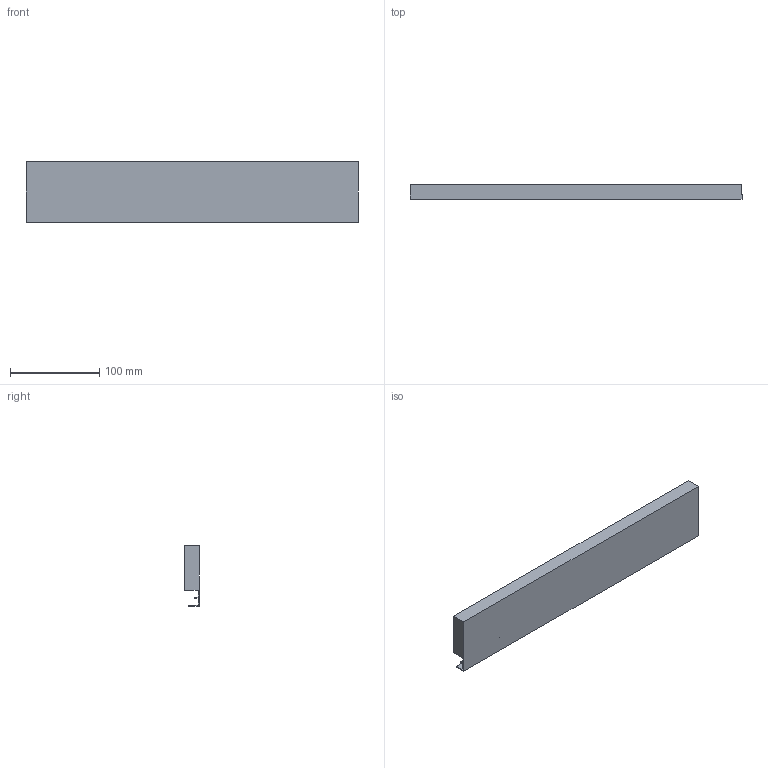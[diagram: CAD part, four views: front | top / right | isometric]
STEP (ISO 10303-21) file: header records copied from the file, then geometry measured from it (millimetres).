
FILE_DESCRIPTION (( 'STEP AP214' ), '1' );
FILE_NAME ('Innenschub-Blendenprofil_KAB500_S19.step', '2010-09-23T12:27:07', ( 'grass' ), ( '' ), 'SwSTEP 2.0', 'SolidWorks 2010', '' );
FILE_SCHEMA (( 'AUTOMOTIVE_DESIGN' ));
Length unit declared in the file: millimetre
Products named in the file (1): Innenschub-Blendenprofil_KAB500_S19
Bounding box: 371 x 15.9 x 67.6 mm (x, y, z)
Volume: 307596.8 mm3; surface area: 74483.2 mm2
Topology: 1 solids, 1 shells, 17 faces, 42 edges, 28 vertices
Faces by surface type: plane 15, cylinder 2
Entity records: 534 total; most frequent: CARTESIAN_POINT 88, ORIENTED_EDGE 84, DIRECTION 82, EDGE_CURVE 42, VECTOR 38, LINE 38, VERTEX_POINT 28, AXIS2_PLACEMENT_3D 22
